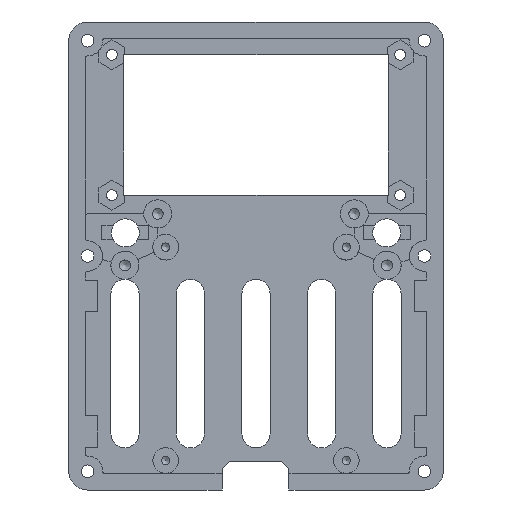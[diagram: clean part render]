
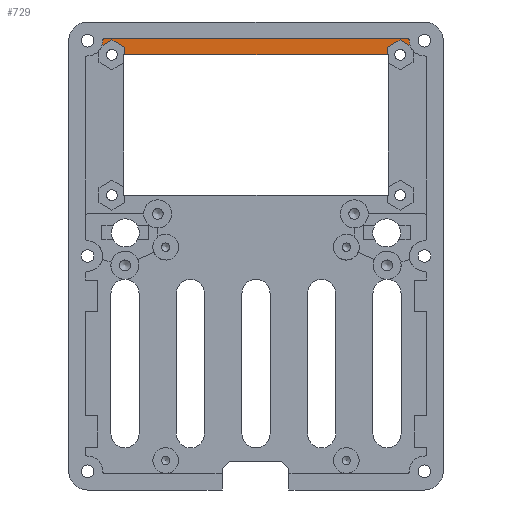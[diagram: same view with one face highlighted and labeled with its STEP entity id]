
A CAD part, front view. The second image highlights one B-rep face of the part: STEP entity #729.
In plain terms, the highlighted planar face has unit normal (0, -1, 0).
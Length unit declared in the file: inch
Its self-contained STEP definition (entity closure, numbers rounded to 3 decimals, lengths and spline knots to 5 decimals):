
#26 = VERTEX_POINT ( 'NONE', #2277 ) ;
#62 = CARTESIAN_POINT ( 'NONE',  ( 1.6125, 0., 2.3 ) ) ;
#100 = ORIENTED_EDGE ( 'NONE', *, *, #5929, .F. ) ;
#120 = EDGE_CURVE ( 'NONE', #6060, #4989, #2245, .T. ) ;
#121 = LINE ( 'NONE', #5378, #262 ) ;
#253 = VERTEX_POINT ( 'NONE', #1298 ) ;
#262 = VECTOR ( 'NONE', #4928, 39.37008 ) ;
#268 = DIRECTION ( 'NONE',  ( 1., 0., 0. ) ) ;
#472 = VECTOR ( 'NONE', #678, 39.37008 ) ;
#496 = CARTESIAN_POINT ( 'NONE',  ( -1.4025, 0., 2.22939 ) ) ;
#541 = VERTEX_POINT ( 'NONE', #4913 ) ;
#559 = ORIENTED_EDGE ( 'NONE', *, *, #942, .F. ) ;
#595 = LINE ( 'NONE', #4937, #4344 ) ;
#664 = CARTESIAN_POINT ( 'NONE',  ( 1.8, 0., 2.3 ) ) ;
#678 = DIRECTION ( 'NONE',  ( 0., 0., -1. ) ) ;
#729 = ADVANCED_FACE ( 'NONE', ( #2672 ), #3880, .F. ) ;
#868 = CARTESIAN_POINT ( 'NONE',  ( -1.6375, 0., 2.3 ) ) ;
#893 = ORIENTED_EDGE ( 'NONE', *, *, #4007, .T. ) ;
#942 = EDGE_CURVE ( 'NONE', #3586, #253, #4435, .T. ) ;
#1003 = EDGE_CURVE ( 'NONE', #4989, #4355, #3783, .T. ) ;
#1146 = ORIENTED_EDGE ( 'NONE', *, *, #3892, .F. ) ;
#1152 = DIRECTION ( 'NONE',  ( 0., 0., -1. ) ) ;
#1257 = VERTEX_POINT ( 'NONE', #2427 ) ;
#1298 = CARTESIAN_POINT ( 'NONE',  ( 1.4025, 0., 2.15 ) ) ;
#1434 = CARTESIAN_POINT ( 'NONE',  ( -1.6125, 0., 2.325 ) ) ;
#1479 = DIRECTION ( 'NONE',  ( 0., 0., -1. ) ) ;
#1489 = VECTOR ( 'NONE', #5978, 39.37008 ) ;
#1501 = CIRCLE ( 'NONE', #4422, 0.025 ) ;
#1523 = DIRECTION ( 'NONE',  ( -0.866, 0., 0.5 ) ) ;
#1530 = LINE ( 'NONE', #3839, #5955 ) ;
#1721 = ORIENTED_EDGE ( 'NONE', *, *, #3122, .F. ) ;
#1732 = AXIS2_PLACEMENT_3D ( 'NONE', #4721, #2845, #5550 ) ;
#1839 = VECTOR ( 'NONE', #1523, 39.37008 ) ;
#1964 = ORIENTED_EDGE ( 'NONE', *, *, #5050, .T. ) ;
#1974 = LINE ( 'NONE', #3679, #2641 ) ;
#2044 = CARTESIAN_POINT ( 'NONE',  ( -1.8, 0., -2.3 ) ) ;
#2093 = VERTEX_POINT ( 'NONE', #496 ) ;
#2231 = VERTEX_POINT ( 'NONE', #5217 ) ;
#2238 = EDGE_CURVE ( 'NONE', #541, #1257, #1530, .T. ) ;
#2245 = CIRCLE ( 'NONE', #1732, 0.025 ) ;
#2277 = CARTESIAN_POINT ( 'NONE',  ( -1.4025, 0., 2.15 ) ) ;
#2289 = ORIENTED_EDGE ( 'NONE', *, *, #3681, .F. ) ;
#2309 = DIRECTION ( 'NONE',  ( -0.866, 0., -0.5 ) ) ;
#2341 = DIRECTION ( 'NONE',  ( 0., 0., 1. ) ) ;
#2427 = CARTESIAN_POINT ( 'NONE',  ( 1.54, 0., 2.30877 ) ) ;
#2511 = CIRCLE ( 'NONE', #4774, 0.1625 ) ;
#2632 = AXIS2_PLACEMENT_3D ( 'NONE', #3075, #3091, #4052 ) ;
#2638 = CARTESIAN_POINT ( 'NONE',  ( 1.54, 0., 2.30877 ) ) ;
#2641 = VECTOR ( 'NONE', #2309, 39.37008 ) ;
#2658 = CARTESIAN_POINT ( 'NONE',  ( 1.6125, 0., 2.325 ) ) ;
#2672 = FACE_OUTER_BOUND ( 'NONE', #4424, .T. ) ;
#2840 = EDGE_CURVE ( 'NONE', #26, #253, #595, .T. ) ;
#2845 = DIRECTION ( 'NONE',  ( 0., -1., 0. ) ) ;
#3075 = CARTESIAN_POINT ( 'NONE',  ( -1.8, 0., 2.3 ) ) ;
#3091 = DIRECTION ( 'NONE',  ( 0., 1., 0. ) ) ;
#3122 = EDGE_CURVE ( 'NONE', #3871, #4355, #1974, .T. ) ;
#3300 = CARTESIAN_POINT ( 'NONE',  ( -1.4025, 0., 2.07061 ) ) ;
#3425 = DIRECTION ( 'NONE',  ( 0., 1., 0. ) ) ;
#3586 = VERTEX_POINT ( 'NONE', #4026 ) ;
#3679 = CARTESIAN_POINT ( 'NONE',  ( -1.54, 0., 2.30877 ) ) ;
#3681 = EDGE_CURVE ( 'NONE', #1257, #3586, #5173, .T. ) ;
#3696 = ORIENTED_EDGE ( 'NONE', *, *, #1003, .T. ) ;
#3703 = VERTEX_POINT ( 'NONE', #2658 ) ;
#3782 = CARTESIAN_POINT ( 'NONE',  ( -1.54, 0., 2.30877 ) ) ;
#3783 = CIRCLE ( 'NONE', #2632, 0.1625 ) ;
#3839 = CARTESIAN_POINT ( 'NONE',  ( 1.6775, 0., 2.22939 ) ) ;
#3861 = LINE ( 'NONE', #5772, #1839 ) ;
#3871 = VERTEX_POINT ( 'NONE', #3782 ) ;
#3880 = PLANE ( 'NONE',  #5009 ) ;
#3892 = EDGE_CURVE ( 'NONE', #26, #2093, #4069, .T. ) ;
#3928 = VECTOR ( 'NONE', #2341, 39.37008 ) ;
#3973 = EDGE_CURVE ( 'NONE', #541, #2231, #2511, .T. ) ;
#4007 = EDGE_CURVE ( 'NONE', #3703, #6060, #121, .T. ) ;
#4026 = CARTESIAN_POINT ( 'NONE',  ( 1.4025, 0., 2.22939 ) ) ;
#4052 = DIRECTION ( 'NONE',  ( 0., 0., -1. ) ) ;
#4069 = LINE ( 'NONE', #3300, #3928 ) ;
#4182 = ORIENTED_EDGE ( 'NONE', *, *, #3973, .T. ) ;
#4299 = DIRECTION ( 'NONE',  ( -0.866, 0., 0.5 ) ) ;
#4326 = DIRECTION ( 'NONE',  ( 0., -1., 0. ) ) ;
#4329 = DIRECTION ( 'NONE',  ( 0., 0., 1. ) ) ;
#4344 = VECTOR ( 'NONE', #268, 39.37008 ) ;
#4355 = VERTEX_POINT ( 'NONE', #5218 ) ;
#4422 = AXIS2_PLACEMENT_3D ( 'NONE', #62, #4326, #1479 ) ;
#4424 = EDGE_LOOP ( 'NONE', ( #2289, #5561, #4182, #1964, #893, #5859, #3696, #1721, #100, #1146, #4899, #559 ) ) ;
#4435 = LINE ( 'NONE', #4892, #472 ) ;
#4469 = DIRECTION ( 'NONE',  ( 0., 1., 0. ) ) ;
#4721 = CARTESIAN_POINT ( 'NONE',  ( -1.6125, 0., 2.3 ) ) ;
#4774 = AXIS2_PLACEMENT_3D ( 'NONE', #664, #4469, #1152 ) ;
#4892 = CARTESIAN_POINT ( 'NONE',  ( 1.4025, 0., 2.22939 ) ) ;
#4899 = ORIENTED_EDGE ( 'NONE', *, *, #2840, .T. ) ;
#4913 = CARTESIAN_POINT ( 'NONE',  ( 1.64624, 0., 2.24744 ) ) ;
#4928 = DIRECTION ( 'NONE',  ( -1., 0., 0. ) ) ;
#4937 = CARTESIAN_POINT ( 'NONE',  ( 1.415, 0., 2.15 ) ) ;
#4989 = VERTEX_POINT ( 'NONE', #868 ) ;
#5009 = AXIS2_PLACEMENT_3D ( 'NONE', #2044, #3425, #4329 ) ;
#5050 = EDGE_CURVE ( 'NONE', #2231, #3703, #1501, .T. ) ;
#5173 = LINE ( 'NONE', #2638, #1489 ) ;
#5217 = CARTESIAN_POINT ( 'NONE',  ( 1.6375, 0., 2.3 ) ) ;
#5218 = CARTESIAN_POINT ( 'NONE',  ( -1.64624, 0., 2.24744 ) ) ;
#5378 = CARTESIAN_POINT ( 'NONE',  ( 1.6125, 0., 2.325 ) ) ;
#5550 = DIRECTION ( 'NONE',  ( 0., 0., -1. ) ) ;
#5561 = ORIENTED_EDGE ( 'NONE', *, *, #2238, .F. ) ;
#5772 = CARTESIAN_POINT ( 'NONE',  ( -1.4025, 0., 2.22939 ) ) ;
#5859 = ORIENTED_EDGE ( 'NONE', *, *, #120, .T. ) ;
#5929 = EDGE_CURVE ( 'NONE', #2093, #3871, #3861, .T. ) ;
#5955 = VECTOR ( 'NONE', #4299, 39.37008 ) ;
#5978 = DIRECTION ( 'NONE',  ( -0.866, 0., -0.5 ) ) ;
#6060 = VERTEX_POINT ( 'NONE', #1434 ) ;
